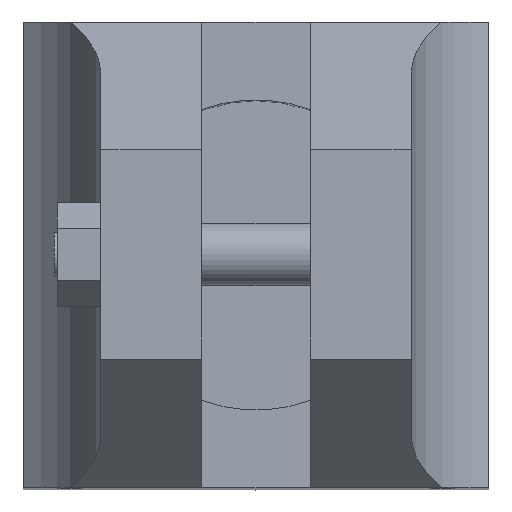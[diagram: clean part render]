
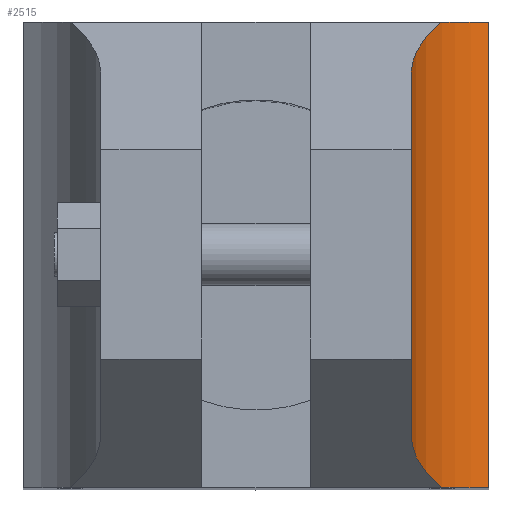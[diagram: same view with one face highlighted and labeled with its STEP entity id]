
A CAD part, top view. The second image highlights one B-rep face of the part: STEP entity #2515.
In plain terms, the highlighted cylindrical face has radius 11.235 mm (diameter 22.47 mm), a partial arc.
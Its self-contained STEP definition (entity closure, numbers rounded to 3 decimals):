
#88 = DIRECTION ( 'NONE',  ( 0., 1., 0. ) ) ;
#200 = CARTESIAN_POINT ( 'NONE',  ( 15., -15., -11.5 ) ) ;
#213 = CARTESIAN_POINT ( 'NONE',  ( 21.235, -15., -2.154 ) ) ;
#251 = DIRECTION ( 'NONE',  ( 0., 0., 1. ) ) ;
#476 = CARTESIAN_POINT ( 'NONE',  ( 11.964, 15., -8.5 ) ) ;
#509 = VERTEX_POINT ( 'NONE', #1266 ) ;
#667 = ORIENTED_EDGE ( 'NONE', *, *, #3118, .T. ) ;
#683 = VERTEX_POINT ( 'NONE', #476 ) ;
#891 = AXIS2_PLACEMENT_3D ( 'NONE', #213, #2690, #3863 ) ;
#907 = VECTOR ( 'NONE', #3810, 1000. ) ;
#968 = CARTESIAN_POINT ( 'NONE',  ( 10., -11.622, -2.154 ) ) ;
#1181 = CARTESIAN_POINT ( 'NONE',  ( 15., 15., -11.5 ) ) ;
#1207 = CARTESIAN_POINT ( 'NONE',  ( 11.964, -15., -8.5 ) ) ;
#1220 = AXIS2_PLACEMENT_3D ( 'NONE', #1757, #2969, #251 ) ;
#1266 = CARTESIAN_POINT ( 'NONE',  ( 10., 11.622, -2.154 ) ) ;
#1288 = VERTEX_POINT ( 'NONE', #2724 ) ;
#1296 = CARTESIAN_POINT ( 'NONE',  ( 10.675, -13.998, -6.617 ) ) ;
#1297 = ORIENTED_EDGE ( 'NONE', *, *, #3799, .F. ) ;
#1550 = EDGE_CURVE ( 'NONE', #683, #509, #2219, .T. ) ;
#1553 = VERTEX_POINT ( 'NONE', #1181 ) ;
#1602 = CARTESIAN_POINT ( 'NONE',  ( 11.964, -15., -8.5 ) ) ;
#1631 = CARTESIAN_POINT ( 'NONE',  ( 10., 20.395, -2.154 ) ) ;
#1673 = ORIENTED_EDGE ( 'NONE', *, *, #2495, .T. ) ;
#1722 = CIRCLE ( 'NONE', #1220, 11.235 ) ;
#1757 = CARTESIAN_POINT ( 'NONE',  ( 21.235, 15., -2.154 ) ) ;
#1779 = CYLINDRICAL_SURFACE ( 'NONE', #3650, 11.235 ) ;
#1809 = EDGE_CURVE ( 'NONE', #1288, #1906, #2779, .T. ) ;
#1879 = DIRECTION ( 'NONE',  ( 0., -1., 0. ) ) ;
#1906 = VERTEX_POINT ( 'NONE', #1207 ) ;
#1980 = LINE ( 'NONE', #200, #907 ) ;
#2102 = CARTESIAN_POINT ( 'NONE',  ( 10., 12.837, -4.436 ) ) ;
#2115 = ORIENTED_EDGE ( 'NONE', *, *, #2662, .T. ) ;
#2164 = CARTESIAN_POINT ( 'NONE',  ( 10., -11.622, -2.154 ) ) ;
#2219 =( BOUNDED_CURVE ( )  B_SPLINE_CURVE ( 3, ( #3594, #3269, #2102, #2422 ),
 .UNSPECIFIED., .F., .T. ) 
 B_SPLINE_CURVE_WITH_KNOTS ( ( 4, 4 ),
 ( 4.112, 4.712 ),
 .UNSPECIFIED. ) 
 CURVE ( )  GEOMETRIC_REPRESENTATION_ITEM ( )  RATIONAL_B_SPLINE_CURVE ( ( 1., 0.97, 0.97, 1. ) ) 
 REPRESENTATION_ITEM ( '' )  );
#2369 = ORIENTED_EDGE ( 'NONE', *, *, #1809, .F. ) ;
#2422 = CARTESIAN_POINT ( 'NONE',  ( 10., 11.622, -2.154 ) ) ;
#2495 = EDGE_CURVE ( 'NONE', #1553, #683, #1722, .T. ) ;
#2515 = ADVANCED_FACE ( 'NONE', ( #3281 ), #1779, .F. ) ;
#2562 = DIRECTION ( 'NONE',  ( 0., 0., 1. ) ) ;
#2604 = VECTOR ( 'NONE', #1879, 1000. ) ;
#2659 = ORIENTED_EDGE ( 'NONE', *, *, #1550, .T. ) ;
#2662 = EDGE_CURVE ( 'NONE', #509, #3779, #3381, .T. ) ;
#2690 = DIRECTION ( 'NONE',  ( 0., 1., 0. ) ) ;
#2724 = CARTESIAN_POINT ( 'NONE',  ( 15., -15., -11.5 ) ) ;
#2779 = CIRCLE ( 'NONE', #891, 11.235 ) ;
#2969 = DIRECTION ( 'NONE',  ( 0., 1., 0. ) ) ;
#2994 = CARTESIAN_POINT ( 'NONE',  ( 21.235, -15., -2.154 ) ) ;
#3042 =( BOUNDED_CURVE ( )  B_SPLINE_CURVE ( 3, ( #1602, #1296, #3673, #968 ),
 .UNSPECIFIED., .F., .T. ) 
 B_SPLINE_CURVE_WITH_KNOTS ( ( 4, 4 ),
 ( 4.112, 4.712 ),
 .UNSPECIFIED. ) 
 CURVE ( )  GEOMETRIC_REPRESENTATION_ITEM ( )  RATIONAL_B_SPLINE_CURVE ( ( 1., 0.97, 0.97, 1. ) ) 
 REPRESENTATION_ITEM ( '' )  );
#3077 = EDGE_LOOP ( 'NONE', ( #2369, #667, #1673, #2659, #2115, #1297 ) ) ;
#3118 = EDGE_CURVE ( 'NONE', #1288, #1553, #1980, .T. ) ;
#3269 = CARTESIAN_POINT ( 'NONE',  ( 10.675, 13.998, -6.617 ) ) ;
#3281 = FACE_OUTER_BOUND ( 'NONE', #3077, .T. ) ;
#3381 = LINE ( 'NONE', #1631, #2604 ) ;
#3594 = CARTESIAN_POINT ( 'NONE',  ( 11.964, 15., -8.5 ) ) ;
#3650 = AXIS2_PLACEMENT_3D ( 'NONE', #2994, #88, #2562 ) ;
#3673 = CARTESIAN_POINT ( 'NONE',  ( 10., -12.837, -4.436 ) ) ;
#3779 = VERTEX_POINT ( 'NONE', #2164 ) ;
#3799 = EDGE_CURVE ( 'NONE', #1906, #3779, #3042, .T. ) ;
#3810 = DIRECTION ( 'NONE',  ( 0., 1., 0. ) ) ;
#3863 = DIRECTION ( 'NONE',  ( 0., 0., 1. ) ) ;
